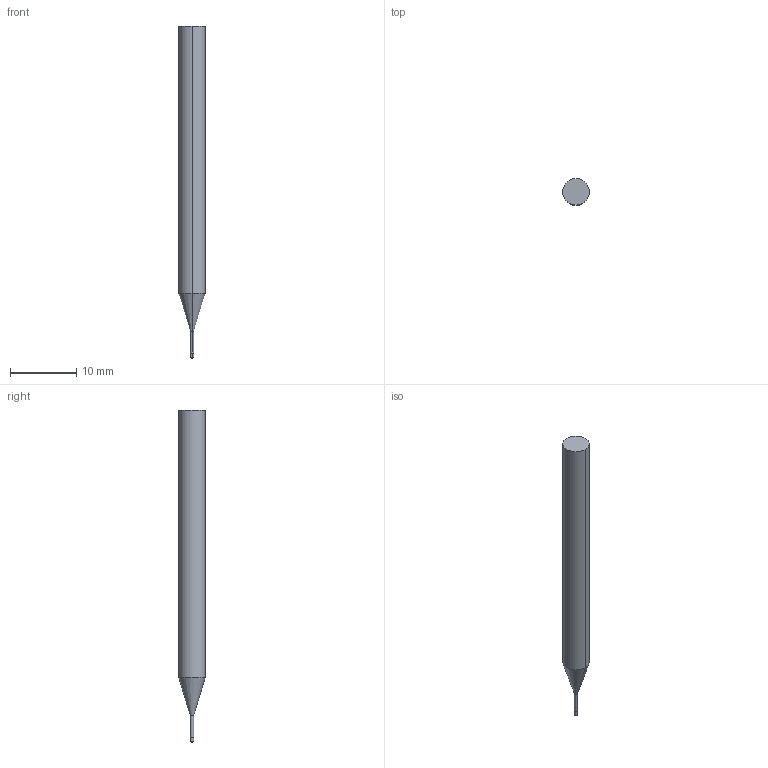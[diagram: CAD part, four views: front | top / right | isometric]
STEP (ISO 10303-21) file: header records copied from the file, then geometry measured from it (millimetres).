
FILE_DESCRIPTION((' '),'2;1');
FILE_NAME( '3MVSM0050R.10N8AH.stp', '2026-01-21T19:27:01', (' '), ('--- Datakit www.datakit.com---'), ' Datakit CrossCadWare V2025.4 Sep 19 2025', 'Mastercam 2027', ' ');
FILE_SCHEMA(('AUTOMOTIVE_DESIGN { 1 0 10303 214 1 1 1 1 }'));
Length unit declared in the file: inch
Products named in the file (1): 3MVSM0050R
Bounding box: 4 x 4 x 50 mm (x, y, z)
Volume: 534.4 mm3; surface area: 567.5 mm2
Topology: 1 solids, 1 shells, 12 faces, 22 edges, 12 vertices
Faces by surface type: cylinder 6, plane 2, torus 2, cone 2
Entity records: 377 total; most frequent: DIRECTION 70, CARTESIAN_POINT 51, ORIENTED_EDGE 44, AXIS2_PLACEMENT_3D 31, EDGE_CURVE 22, CIRCLE 14, VERTEX_POINT 12, EDGE_LOOP 12
